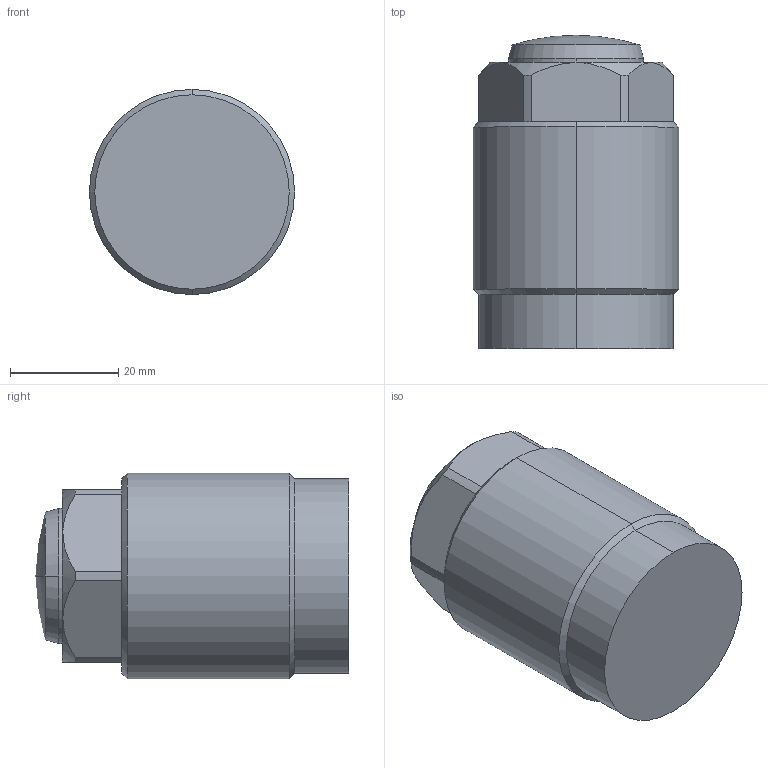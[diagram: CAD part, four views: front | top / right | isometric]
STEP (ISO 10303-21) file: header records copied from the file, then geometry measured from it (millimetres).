
FILE_DESCRIPTION (( 'STEP AP214' ), '1' );
FILE_NAME ('TC-25A.STEP', '2021-10-19T00:46:52', ( '' ), ( '' ), 'SwSTEP 2.0', 'SolidWorks 2016', '' );
FILE_SCHEMA (( 'AUTOMOTIVE_DESIGN' ));
Length unit declared in the file: millimetre
Products named in the file (1): TC-25A
Bounding box: 38 x 58 x 38 mm (x, y, z)
Volume: 57915.6 mm3; surface area: 8426.1 mm2
Topology: 1 solids, 1 shells, 36 faces, 80 edges, 47 vertices
Faces by surface type: plane 14, cylinder 12, cone 8, sphere 2
Entity records: 1128 total; most frequent: CARTESIAN_POINT 260, DIRECTION 186, ORIENTED_EDGE 160, EDGE_CURVE 80, AXIS2_PLACEMENT_3D 77, VERTEX_POINT 47, CIRCLE 40, EDGE_LOOP 37
